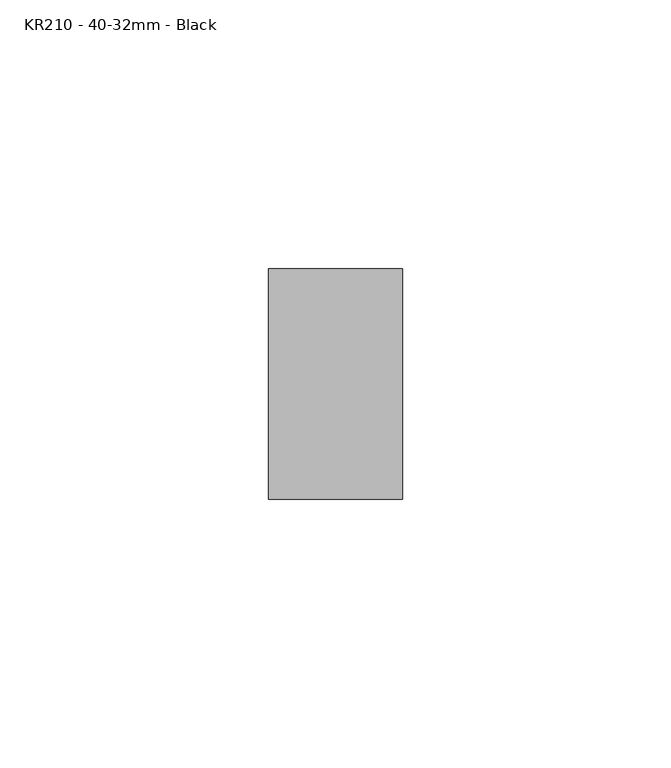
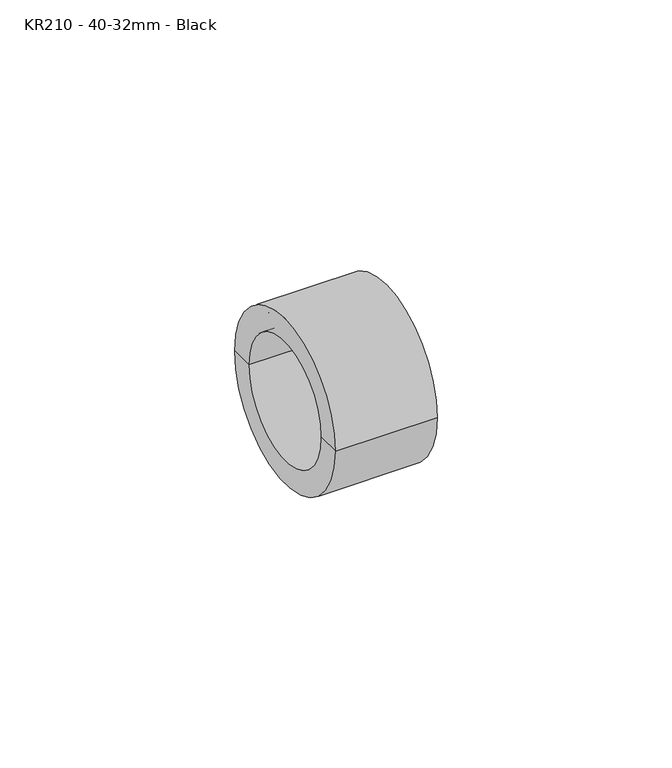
"""IFC4 building model written with IfcOpenShell, lengths in millimetres: pipe fitting geometry, MarleyPlumbingAndDrainage_PipeFitting_SocketReducer : KR210 - 40-32mm - Black."""

from ifc_helpers import new_model, si_unit, frame, origin, place, context, project, spatial, polyline, circle_curve, source, transform, mapped, element, save
from ifc_brep_helpers import plane_surface, cylinder_surface, revolved_surface, advanced_brep


def kr210_40_32mm_black_3720de73(model_context):
    return source(origin(), model_context, "Body", "AdvancedBrep", [
        advanced_brep(
        [(-14.8253818, -19.0, 0.0), (-14.8253818, 19.0, 0.0), (-14.8253818, 18.0, 0.0), (-14.8253818, -18.0, 0.0), (7.6746182, -19.0, 0.0), (7.6746182, 19.0, 0.0), (7.6746182, -21.5, 0.0), (7.6746182, 21.5, 0.0), (-17.3253818, -21.5, 0.0), (-17.3253818, 21.5, 0.0), (-17.3253818, -15.5, 0.0), (-17.3253818, 15.5, 0.0), (2.6746182, -15.5, 0.0), (2.6746182, 15.5, 0.0), (2.6746182, -18.0, 0.0), (2.6746182, 18.0, 0.0)],
        [
            (0, 1, circle_curve(frame((-14.8253818, 0.0, 0.0), z_axis=(1.0, 0.0, 0.0), x_axis=(0.0, 1.0, 0.0)), 19.0)),
            (1, 2),
            (2, 3, circle_curve(frame((-14.8253818, 0.0, 0.0), z_axis=(-1.0, 0.0, 0.0), x_axis=(0.0, 1.0, 0.0)), 18.0)),
            (3, 0),
            (1, 0, circle_curve(frame((-14.8253818, 0.0, 0.0), z_axis=(1.0, 0.0, 0.0), x_axis=(0.0, 1.0, 0.0)), 19.0)),
            (3, 2, circle_curve(frame((-14.8253818, 0.0, 0.0), z_axis=(-1.0, 0.0, 0.0), x_axis=(0.0, 1.0, 0.0)), 18.0)),
            (4, 5, circle_curve(frame((7.6746182, 0.0, 0.0), z_axis=(1.0, 0.0, 0.0), x_axis=(0.0, 1.0, 0.0)), 19.0)),
            (5, 1),
            (0, 4),
            (5, 4, circle_curve(frame((7.6746182, 0.0, 0.0), z_axis=(1.0, 0.0, 0.0), x_axis=(0.0, 1.0, 0.0)), 19.0)),
            (6, 7, circle_curve(frame((7.6746182, 0.0, 0.0), z_axis=(1.0, 0.0, 0.0), x_axis=(0.0, 1.0, 0.0)), 21.5)),
            (7, 5),
            (4, 6),
            (7, 6, circle_curve(frame((7.6746182, 0.0, 0.0), z_axis=(1.0, 0.0, 0.0), x_axis=(0.0, 1.0, 0.0)), 21.5)),
            (8, 9, circle_curve(frame((-17.3253818, 0.0, 0.0), z_axis=(1.0, 0.0, 0.0), x_axis=(0.0, 1.0, 0.0)), 21.5)),
            (9, 7),
            (6, 8),
            (9, 8, circle_curve(frame((-17.3253818, 0.0, 0.0), z_axis=(1.0, 0.0, 0.0), x_axis=(0.0, 1.0, 0.0)), 21.5)),
            (10, 11, circle_curve(frame((-17.3253818, 0.0, 0.0), z_axis=(1.0, 0.0, 0.0), x_axis=(0.0, 1.0, 0.0)), 15.5)),
            (11, 9),
            (8, 10),
            (11, 10, circle_curve(frame((-17.3253818, 0.0, 0.0), z_axis=(1.0, 0.0, 0.0), x_axis=(0.0, 1.0, 0.0)), 15.5)),
            (12, 13, circle_curve(frame((2.6746182, 0.0, 0.0), z_axis=(1.0, 0.0, 0.0), x_axis=(0.0, 1.0, 0.0)), 15.5)),
            (13, 11),
            (10, 12),
            (13, 12, circle_curve(frame((2.6746182, 0.0, 0.0), z_axis=(1.0, 0.0, 0.0), x_axis=(0.0, 1.0, 0.0)), 15.5)),
            (14, 15, circle_curve(frame((2.6746182, 0.0, 0.0), z_axis=(1.0, 0.0, 0.0), x_axis=(0.0, 1.0, 0.0)), 18.0)),
            (15, 13),
            (12, 14),
            (15, 14, circle_curve(frame((2.6746182, 0.0, 0.0), z_axis=(1.0, 0.0, 0.0), x_axis=(0.0, 1.0, 0.0)), 18.0)),
            (2, 15),
            (14, 3),
        ],
        [
            plane_surface(frame((-14.8253818, 0.0, 0.0), z_axis=(1.0, 0.0, 0.0), x_axis=(0.0, 1.0, 0.0))),
            revolved_surface(polyline([(-14.82538180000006, 19.0, 0.0), (7.674618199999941, 19.0, 0.0)]), (2011.5, 0.0, 0.0), (-1.0, 0.0, 0.0)),
            plane_surface(frame((7.6746182, 0.0, 0.0), z_axis=(1.0, 0.0, 0.0), x_axis=(0.0, 1.0, 0.0))),
            cylinder_surface(frame((2011.5, 0.0, 0.0), z_axis=(-1.0, 0.0, 0.0), x_axis=(0.0, 1.0, 0.0)), 21.5),
            plane_surface(frame((-17.3253818, 0.0, 0.0), z_axis=(-1.0, 0.0, 0.0), x_axis=(0.0, 1.0, 0.0))),
            revolved_surface(polyline([(-17.32538180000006, 15.5, 0.0), (2.6746181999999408, 15.5, 0.0)]), (2011.5, 0.0, 0.0), (-1.0, 0.0, 0.0)),
            plane_surface(frame((2.6746182, 0.0, 0.0), z_axis=(1.0, 0.0, 0.0), x_axis=(0.0, 1.0, 0.0))),
            cylinder_surface(frame((2011.5, 0.0, 0.0), z_axis=(-1.0, 0.0, 0.0), x_axis=(0.0, 1.0, 0.0)), 18.0),
        ],
        [
            (0, [[1, 2, 3, 4]]),
            (0, [[5, -4, 6, -2]]),
            (1, [[7, 8, -1, 9]]),
            (1, [[10, -9, -5, -8]]),
            (2, [[11, 12, -7, 13]]),
            (2, [[14, -13, -10, -12]]),
            (3, [[15, 16, -11, 17]]),
            (3, [[18, -17, -14, -16]]),
            (4, [[19, 20, -15, 21]]),
            (4, [[22, -21, -18, -20]]),
            (5, [[23, 24, -19, 25]]),
            (5, [[26, -25, -22, -24]]),
            (6, [[27, 28, -23, 29]]),
            (6, [[30, -29, -26, -28]]),
            (7, [[-3, 31, -27, 32]]),
            (7, [[-6, -32, -30, -31]]),
        ],
    ),
    ])


if __name__ == "__main__":
    model = new_model("IFC4")
    model_context = context("Model", 3, world=origin())
    ifc_project = project(units=[si_unit("LENGTHUNIT", "METRE", prefix="MILLI")], contexts=[model_context])
    site = spatial("IfcSite", under=ifc_project)
    building = spatial("IfcBuilding", under=site)
    placement = place(None, origin())
    kr210_40_32mm_black_shape = kr210_40_32mm_black_3720de73(model_context)
    element("IfcPipeFitting", 1, ObjectType="MarleyPlumbingAndDrainage_PipeFitting_SocketReducer : KR210 - 40-32mm - Black", at=placement, inside=building, context=model_context, shape_type="MappedRepresentation", body=[
        mapped(kr210_40_32mm_black_shape, transform((0.0, 0.0, 0.0), x_axis=(1.0, 0.0, 0.0), y_axis=(0.0, 1.0, 0.0), z_axis=(0.0, 0.0, 1.0))),
    ])
    save(model, "model.ifc")
